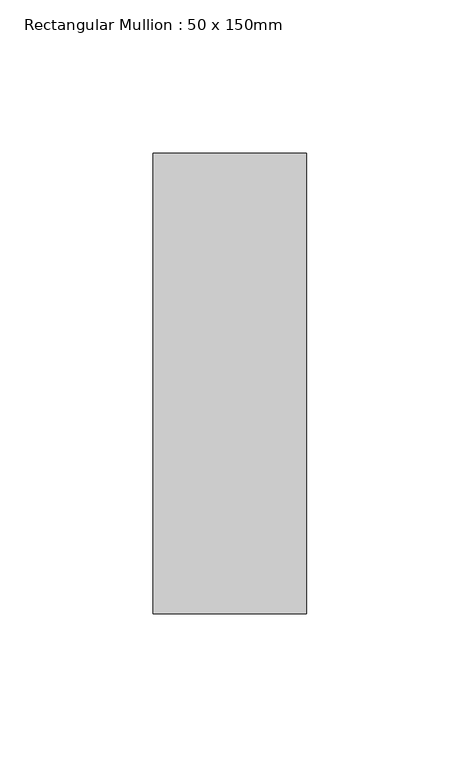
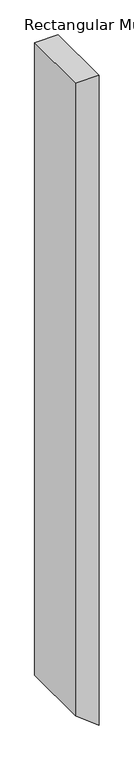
"""IFC4 building model written with IfcOpenShell, lengths in millimetres: member geometry, Rectangular Mullion : 50 x 150mm."""

from ifc_helpers import new_model, si_unit, frame, origin, place, context, project, spatial, polyline, outline, extrude, source, transform, mapped, element, save


def rectangular_mullion_50_x_150mm_b44a1f06(model_context):
    return source(origin(), model_context, "Body", "SweptSolid", [
        extrude(outline(polyline([(0.0, 0.0), (-0.0579237, -50.0), (-1417.4062475, -50.0), (-1456.549913, 0.0), (0.0, 0.0)])), frame((0.0, -75.0, 0.0), z_axis=(0.0, 1.0, 0.0), x_axis=(0.0, 0.0, 1.0)), (0.0, 0.0, 1.0), 150.0),
    ])


if __name__ == "__main__":
    model = new_model("IFC4")
    model_context = context("Model", 3, world=origin())
    ifc_project = project(units=[si_unit("LENGTHUNIT", "METRE", prefix="MILLI")], contexts=[model_context])
    site = spatial("IfcSite", under=ifc_project)
    building = spatial("IfcBuilding", under=site)
    placement = place(None, origin())
    rectangular_mullion_50_x_150mm_shape = rectangular_mullion_50_x_150mm_b44a1f06(model_context)
    element("IfcMember", 1, ObjectType="Rectangular Mullion : 50 x 150mm", at=placement, inside=building, context=model_context, shape_type="MappedRepresentation", body=[
        mapped(rectangular_mullion_50_x_150mm_shape, transform((0.0, 0.0, 0.0), x_axis=(1.0, 0.0, 0.0), y_axis=(0.0, 1.0, 0.0), z_axis=(0.0, 0.0, 1.0))),
    ])
    save(model, "model.ifc")
